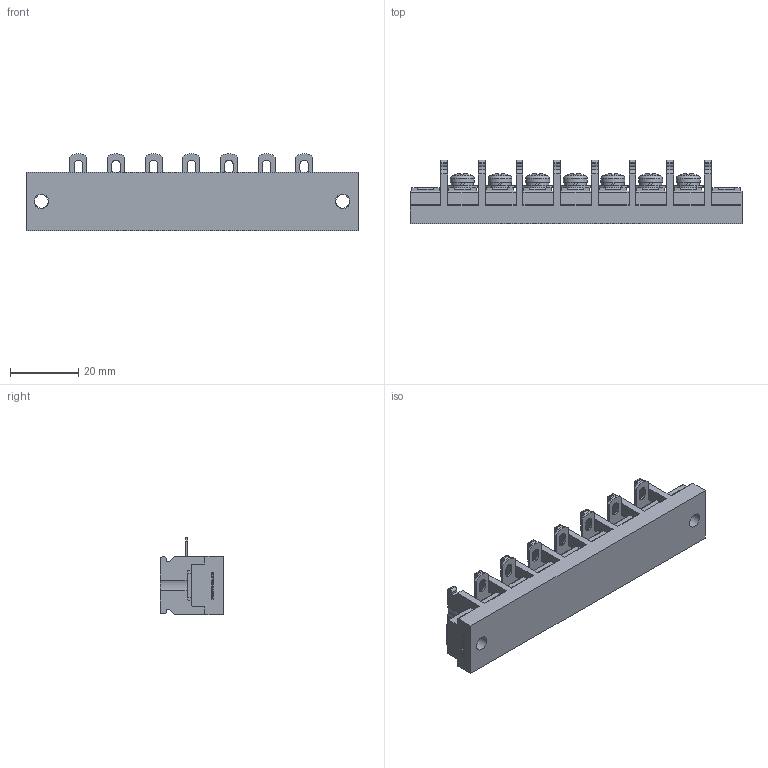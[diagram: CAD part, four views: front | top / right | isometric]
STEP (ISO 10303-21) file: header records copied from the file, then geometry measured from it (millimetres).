
FILE_DESCRIPTION(/* description */ ('Alibre Inc.'),/* implementation_level */ '2;1');
FILE_NAME(/* name */ 'export0',/* time_stamp */ '2015-10-19T19:32:17+09:00',/* author */ (''),/* organization */ (''),/* preprocessor_version */ 'ST-DEVELOPER v14',/* originating_system */ 'Alibre',/* authorisation */ '');
FILE_SCHEMA (('CONFIG_CONTROL_DESIGN'));
Length unit declared in the file: centimetre
Products named in the file (1): ID_1
Bounding box: 97 x 18.5 x 22.5 mm (x, y, z)
Volume: 17882.2 mm3; surface area: 10942.8 mm2
Topology: 1 solids, 1 shells, 1396 faces, 3884 edges, 2527 vertices
Faces by surface type: plane 1088, cylinder 155, bspline 104, cone 28, torus 14, sphere 7
Full cylindrical faces by diameter (mm): 4 x9, 4.2 x9, 6.5 x7, 7 x7
Entity records: 41666 total; most frequent: CARTESIAN_POINT 8523, ORIENTED_EDGE 7644, DIRECTION 5243, EDGE_CURVE 3822, VECTOR 2822, LINE 2822, VERTEX_POINT 2504, AXIS2_PLACEMENT_3D 1669
